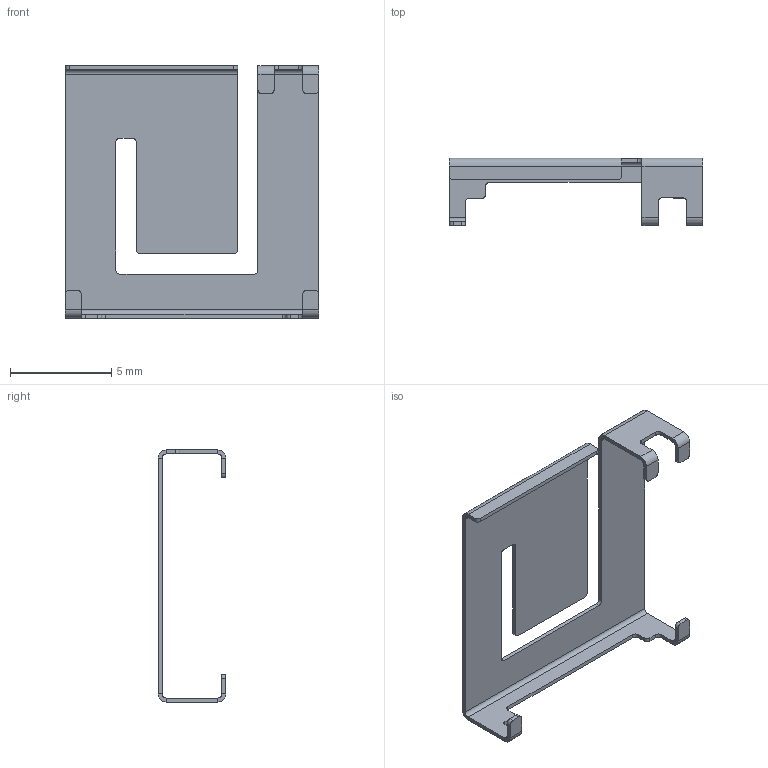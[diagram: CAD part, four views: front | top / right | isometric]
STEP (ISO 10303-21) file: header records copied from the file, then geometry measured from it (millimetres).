
FILE_DESCRIPTION (( 'STEP AP203' ), '1' );
FILE_NAME ('430-00-160603.STEP', '2016-06-23T11:30:16', ( '' ), ( '' ), 'SwSTEP 2.0', 'SolidWorks 2010', '' );
FILE_SCHEMA (( 'CONFIG_CONTROL_DESIGN' ));
Length unit declared in the file: millimetre
Products named in the file (1): 430-00-160603
Bounding box: 12.5 x 3.33 x 12.43 mm (x, y, z)
Volume: 33.1 mm3; surface area: 355.4 mm2
Topology: 1 solids, 1 shells, 366 faces, 943 edges, 610 vertices
Faces by surface type: plane 234, bspline 94, cylinder 38
Entity records: 19716 total; most frequent: CARTESIAN_POINT 11322, ORIENTED_EDGE 1886, DIRECTION 1377, EDGE_CURVE 943, VECTOR 679, LINE 679, VERTEX_POINT 610, EDGE_LOOP 397
